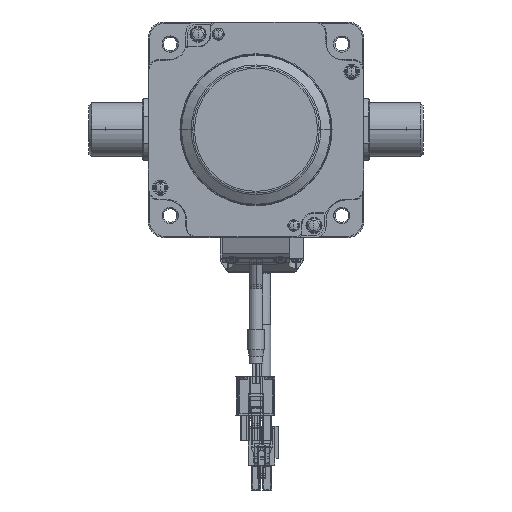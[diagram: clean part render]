
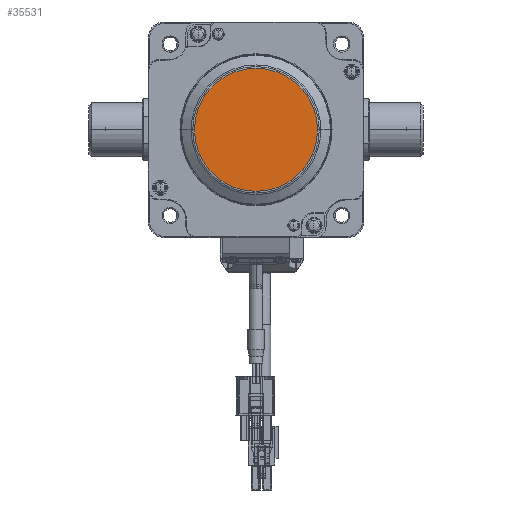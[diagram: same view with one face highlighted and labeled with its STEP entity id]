
A CAD part, front view. The second image highlights one B-rep face of the part: STEP entity #35531.
In plain terms, the highlighted planar face has unit normal (0, -1, 0) as drawn and (-1, 0, 0) by its records, which use the part's own axes.
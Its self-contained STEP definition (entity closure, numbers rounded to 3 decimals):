
#28512=CARTESIAN_POINT('',(-91.9,0.,0.));
#28513=DIRECTION('',(-1.,0.,0.));
#28514=DIRECTION('',(0.,0.,-1.));
#28515=AXIS2_PLACEMENT_3D('',#28512,#28513,#28514);
#28517=CARTESIAN_POINT('',(-91.9,0.,0.));
#28518=DIRECTION('',(-1.,0.,0.));
#28519=DIRECTION('',(0.,0.,1.));
#28520=AXIS2_PLACEMENT_3D('',#28517,#28518,#28519);
#30344=CARTESIAN_POINT('',(-91.9,0.,-22.84));
#30346=VERTEX_POINT('',#30344);
#30350=CARTESIAN_POINT('',(-91.9,0.,22.84));
#30351=VERTEX_POINT('',#30350);
#35521=CARTESIAN_POINT('',(-91.9,-22.,36.));
#35522=DIRECTION('',(1.,0.,0.));
#35523=DIRECTION('',(0.,0.,-1.));
#35524=AXIS2_PLACEMENT_3D('',#35521,#35522,#35523);
#35525=PLANE('',#35524);
#35526=ORIENTED_EDGE('',*,*,#35511,.F.);
#35528=ORIENTED_EDGE('',*,*,#35527,.F.);
#35529=EDGE_LOOP('',(#35526,#35528));
#35530=FACE_OUTER_BOUND('',#35529,.F.);
#35531=ADVANCED_FACE('',(#35530),#35525,.F.);
#28516=CIRCLE('',#28515,22.84);
#28521=CIRCLE('',#28520,22.84);
#35511=EDGE_CURVE('',#30346,#30351,#28516,.T.);
#35527=EDGE_CURVE('',#30351,#30346,#28521,.T.);
